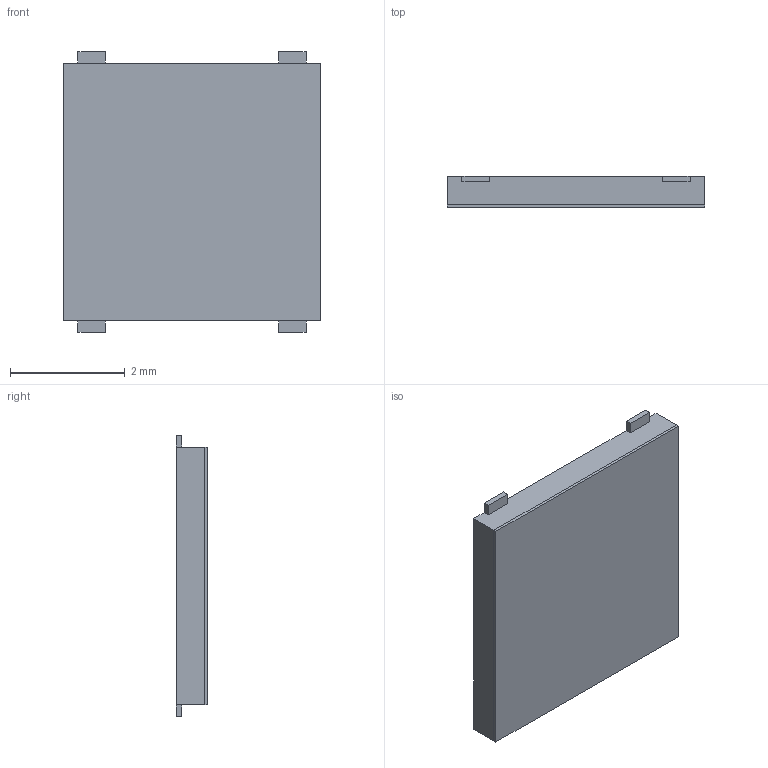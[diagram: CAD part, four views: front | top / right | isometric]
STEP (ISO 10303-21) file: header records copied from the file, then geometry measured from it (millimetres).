
FILE_DESCRIPTION((''),'2;1');
FILE_NAME('JQA4545-B0101-01EG-1-106_ASM','2026-05-22T15:17:43',('Admin'),(''),'CREO PARAMETRIC BY PTC INC, 2019224','CREO PARAMETRIC BY PTC INC, 2019224','');
FILE_SCHEMA(('AUTOMOTIVE_DESIGN { 1 0 10303 214 1 1 1 1 }'));
Length unit declared in the file: millimetre
Products named in the file (3): JQA4545-B0101-01EG-1-106_01; JQA4545-B0101-01EG-1-106_02; JQA4545-B0101-01EG-1-106_ASM
Assembly tree (2 placements, depth 2):
  JQA4545-B0101-01EG-1-106_ASM
    JQA4545-B0101-01EG-1-106_01
    JQA4545-B0101-01EG-1-106_02
Bounding box: 4.5 x 0.55 x 4.9 mm (x, y, z)
Volume: 8.8 mm3; surface area: 98.5 mm2
Topology: 2 solids, 2 shells, 57 faces, 155 edges, 103 vertices
Faces by surface type: plane 51, cylinder 4, sphere 2
Entity records: 2771 total; most frequent: CARTESIAN_POINT 327, ORIENTED_EDGE 304, DIRECTION 303, PRESENTATION_STYLE_ASSIGNMENT 186, STYLED_ITEM 158, CURVE_STYLE 156, EDGE_CURVE 152, VECTOR 135
